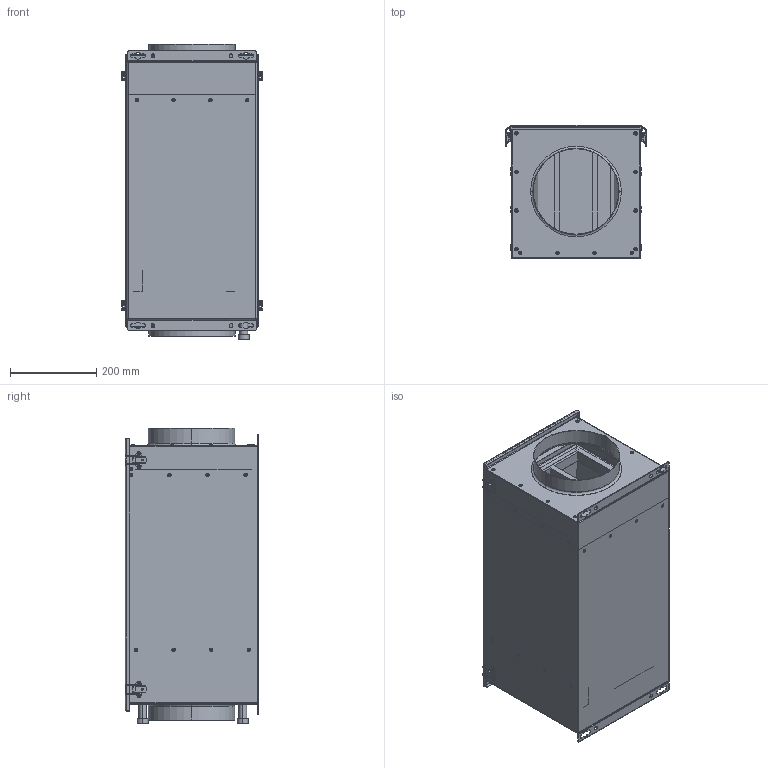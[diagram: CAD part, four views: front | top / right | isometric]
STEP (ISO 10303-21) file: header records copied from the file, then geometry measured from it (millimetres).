
FILE_DESCRIPTION (( 'STEP AP203' ), '1' );
FILE_NAME ('112853-00_FTW200_step.step', '2020-08-26T09:49:03', ( '' ), ( '' ), 'SwSTEP 2.0', 'SolidWorks 2017', '' );
FILE_SCHEMA (( 'CONFIG_CONTROL_DESIGN' ));
Length unit declared in the file: millimetre
Products named in the file (1): 112853-00_FTW200_step
Bounding box: 327.58 x 309.3 x 684 mm (x, y, z)
Surface area: 2182223.8 mm2 (no closed solid volume)
Topology: 0 solids, 114 shells, 883 faces, 2856 edges, 1966 vertices
Faces by surface type: cylinder 423, plane 226, torus 144, bspline 90
Entity records: 33721 total; most frequent: CARTESIAN_POINT 7994, DIRECTION 5977, ORIENTED_EDGE 4450, EDGE_CURVE 2856, AXIS2_PLACEMENT_3D 2405, VERTEX_POINT 1966, CIRCLE 1611, LINE 1167
